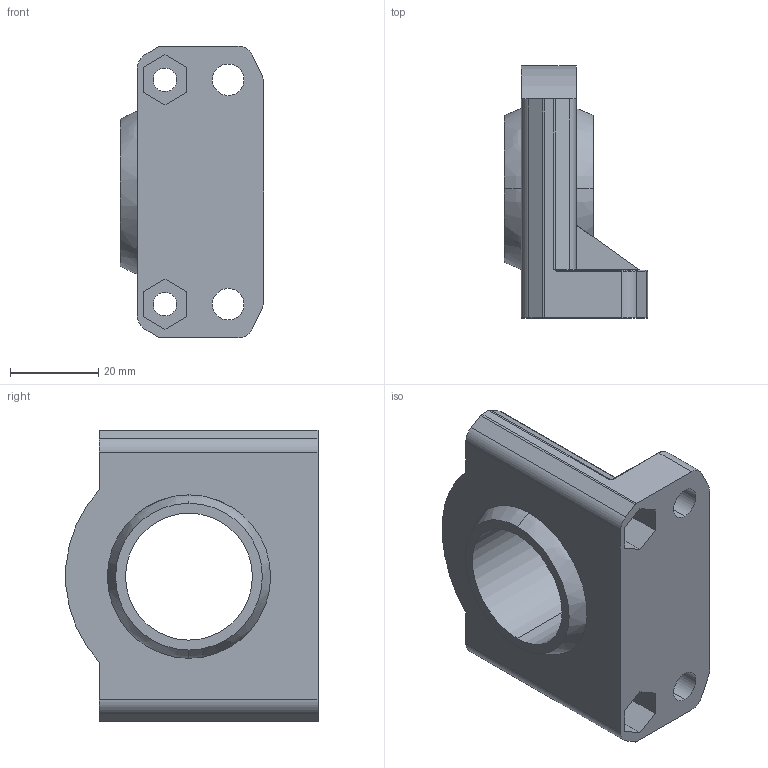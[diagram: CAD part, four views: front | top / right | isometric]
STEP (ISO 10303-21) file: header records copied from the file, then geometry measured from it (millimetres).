
FILE_DESCRIPTION (( 'STEP AP214' ), '1' );
FILE_NAME ('PB30-M1.STEP', '2016-08-18T20:58:17', ( '' ), ( '' ), 'SwSTEP 2.0', 'SolidWorks 2015', '' );
FILE_SCHEMA (( 'AUTOMOTIVE_DESIGN' ));
Length unit declared in the file: inch
Products named in the file (3): Swivell_Ball_30mm; PB30-M1_house; PB30-M1
Assembly tree (2 placements, depth 2):
  PB30-M1
    PB30-M1_house
    Swivell_Ball_30mm
Bounding box: 32.42 x 57.05 x 66.04 mm (x, y, z)
Volume: 38906.6 mm3; surface area: 19004.8 mm2
Topology: 2 solids, 2 shells, 137 faces, 350 edges, 220 vertices
Faces by surface type: plane 67, cylinder 49, bspline 21
Entity records: 4639 total; most frequent: CARTESIAN_POINT 1220, ORIENTED_EDGE 694, DIRECTION 643, EDGE_CURVE 347, VERTEX_POINT 220, VECTOR 219, LINE 219, AXIS2_PLACEMENT_3D 212
